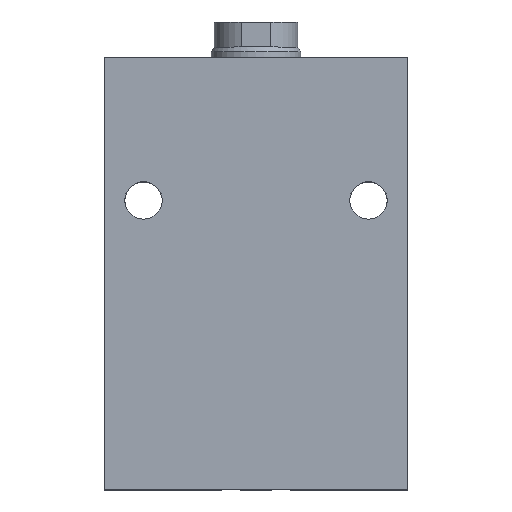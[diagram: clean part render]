
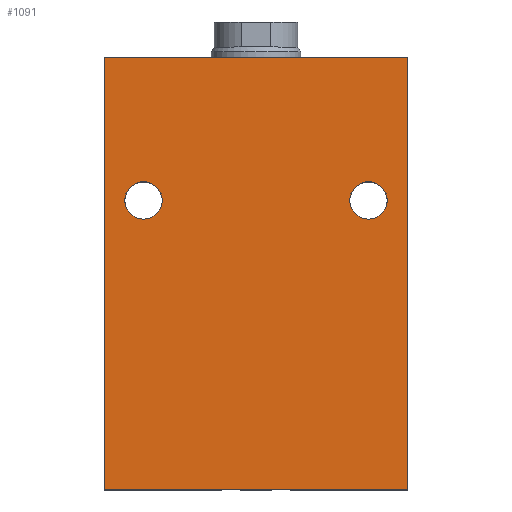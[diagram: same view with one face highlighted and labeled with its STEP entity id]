
A CAD part, top view. The second image highlights one B-rep face of the part: STEP entity #1091.
In plain terms, the highlighted planar face has unit normal (0, 0, 1).
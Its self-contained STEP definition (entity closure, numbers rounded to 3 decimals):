
#3 = CARTESIAN_POINT ( 'NONE',  ( -42.5, 71., 31.5 ) ) ;
#29 = VERTEX_POINT ( 'NONE', #3168 ) ;
#59 = DIRECTION ( 'NONE',  ( 1., 0., 0. ) ) ;
#86 = CARTESIAN_POINT ( 'NONE',  ( -42.5, 0., 31.5 ) ) ;
#87 = AXIS2_PLACEMENT_3D ( 'NONE', #4152, #2017, #1998 ) ;
#294 = CARTESIAN_POINT ( 'NONE',  ( 26.25, 81., 31.5 ) ) ;
#301 = EDGE_CURVE ( 'NONE', #2843, #2431, #523, .T. ) ;
#306 = VERTEX_POINT ( 'NONE', #4247 ) ;
#338 = VECTOR ( 'NONE', #59, 1000. ) ;
#523 = LINE ( 'NONE', #86, #338 ) ;
#601 = ORIENTED_EDGE ( 'NONE', *, *, #3205, .F. ) ;
#716 = VERTEX_POINT ( 'NONE', #1189 ) ;
#831 = ORIENTED_EDGE ( 'NONE', *, *, #3101, .F. ) ;
#958 = EDGE_LOOP ( 'NONE', ( #3290, #601, #2629, #1060 ) ) ;
#1060 = ORIENTED_EDGE ( 'NONE', *, *, #3154, .T. ) ;
#1091 = ADVANCED_FACE ( 'NONE', ( #1684, #1635, #1730 ), #2002, .F. ) ;
#1093 = AXIS2_PLACEMENT_3D ( 'NONE', #1186, #3478, #1497 ) ;
#1167 = VERTEX_POINT ( 'NONE', #3308 ) ;
#1186 = CARTESIAN_POINT ( 'NONE',  ( 31.5, 81., 31.5 ) ) ;
#1189 = CARTESIAN_POINT ( 'NONE',  ( 36.75, 81., 31.5 ) ) ;
#1192 = AXIS2_PLACEMENT_3D ( 'NONE', #1573, #1558, #1602 ) ;
#1232 = AXIS2_PLACEMENT_3D ( 'NONE', #3954, #1655, #3588 ) ;
#1312 = EDGE_LOOP ( 'NONE', ( #2527, #1539 ) ) ;
#1497 = DIRECTION ( 'NONE',  ( 1., 0., 0. ) ) ;
#1539 = ORIENTED_EDGE ( 'NONE', *, *, #2453, .F. ) ;
#1558 = DIRECTION ( 'NONE',  ( 0., 0., 1. ) ) ;
#1573 = CARTESIAN_POINT ( 'NONE',  ( 31.5, 81., 31.5 ) ) ;
#1602 = DIRECTION ( 'NONE',  ( 1., 0., 0. ) ) ;
#1635 = FACE_BOUND ( 'NONE', #1953, .T. ) ;
#1655 = DIRECTION ( 'NONE',  ( 0., 0., 1. ) ) ;
#1667 = CIRCLE ( 'NONE', #1093, 5.25 ) ;
#1684 = FACE_BOUND ( 'NONE', #1312, .T. ) ;
#1730 = FACE_OUTER_BOUND ( 'NONE', #958, .T. ) ;
#1746 = EDGE_CURVE ( 'NONE', #716, #2885, #3923, .T. ) ;
#1844 = EDGE_CURVE ( 'NONE', #29, #306, #3415, .T. ) ;
#1927 = AXIS2_PLACEMENT_3D ( 'NONE', #3464, #3453, #3448 ) ;
#1953 = EDGE_LOOP ( 'NONE', ( #831, #3619 ) ) ;
#1998 = DIRECTION ( 'NONE',  ( -1., 0., 0. ) ) ;
#2002 = PLANE ( 'NONE',  #87 ) ;
#2017 = DIRECTION ( 'NONE',  ( 0., 0., -1. ) ) ;
#2107 = DIRECTION ( 'NONE',  ( 1., 0., 0. ) ) ;
#2369 = VERTEX_POINT ( 'NONE', #2471 ) ;
#2431 = VERTEX_POINT ( 'NONE', #4165 ) ;
#2453 = EDGE_CURVE ( 'NONE', #2885, #716, #1667, .T. ) ;
#2471 = CARTESIAN_POINT ( 'NONE',  ( -26.25, 81., 31.5 ) ) ;
#2527 = ORIENTED_EDGE ( 'NONE', *, *, #1746, .F. ) ;
#2560 = CARTESIAN_POINT ( 'NONE',  ( -42.5, 0., 31.5 ) ) ;
#2629 = ORIENTED_EDGE ( 'NONE', *, *, #1844, .F. ) ;
#2843 = VERTEX_POINT ( 'NONE', #2560 ) ;
#2885 = VERTEX_POINT ( 'NONE', #294 ) ;
#2954 = DIRECTION ( 'NONE',  ( 0., -1., 0. ) ) ;
#2973 = CIRCLE ( 'NONE', #1927, 5.25 ) ;
#3101 = EDGE_CURVE ( 'NONE', #2369, #1167, #4110, .T. ) ;
#3154 = EDGE_CURVE ( 'NONE', #29, #2843, #4007, .T. ) ;
#3168 = CARTESIAN_POINT ( 'NONE',  ( -42.5, 121., 31.5 ) ) ;
#3205 = EDGE_CURVE ( 'NONE', #306, #2431, #3866, .T. ) ;
#3290 = ORIENTED_EDGE ( 'NONE', *, *, #301, .T. ) ;
#3308 = CARTESIAN_POINT ( 'NONE',  ( -36.75, 81., 31.5 ) ) ;
#3317 = VECTOR ( 'NONE', #2107, 1000. ) ;
#3415 = LINE ( 'NONE', #3747, #3317 ) ;
#3448 = DIRECTION ( 'NONE',  ( 1., 0., 0. ) ) ;
#3453 = DIRECTION ( 'NONE',  ( 0., 0., 1. ) ) ;
#3464 = CARTESIAN_POINT ( 'NONE',  ( -31.5, 81., 31.5 ) ) ;
#3478 = DIRECTION ( 'NONE',  ( 0., 0., 1. ) ) ;
#3569 = EDGE_CURVE ( 'NONE', #1167, #2369, #2973, .T. ) ;
#3588 = DIRECTION ( 'NONE',  ( 1., 0., 0. ) ) ;
#3619 = ORIENTED_EDGE ( 'NONE', *, *, #3569, .F. ) ;
#3747 = CARTESIAN_POINT ( 'NONE',  ( -42.5, 121., 31.5 ) ) ;
#3862 = VECTOR ( 'NONE', #2954, 1000. ) ;
#3866 = LINE ( 'NONE', #3942, #3862 ) ;
#3923 = CIRCLE ( 'NONE', #1192, 5.25 ) ;
#3942 = CARTESIAN_POINT ( 'NONE',  ( 42.5, 71., 31.5 ) ) ;
#3954 = CARTESIAN_POINT ( 'NONE',  ( -31.5, 81., 31.5 ) ) ;
#4007 = LINE ( 'NONE', #3, #4065 ) ;
#4065 = VECTOR ( 'NONE', #4242, 1000. ) ;
#4110 = CIRCLE ( 'NONE', #1232, 5.25 ) ;
#4152 = CARTESIAN_POINT ( 'NONE',  ( -42.5, 71., 31.5 ) ) ;
#4165 = CARTESIAN_POINT ( 'NONE',  ( 42.5, 0., 31.5 ) ) ;
#4242 = DIRECTION ( 'NONE',  ( 0., -1., 0. ) ) ;
#4247 = CARTESIAN_POINT ( 'NONE',  ( 42.5, 121., 31.5 ) ) ;
